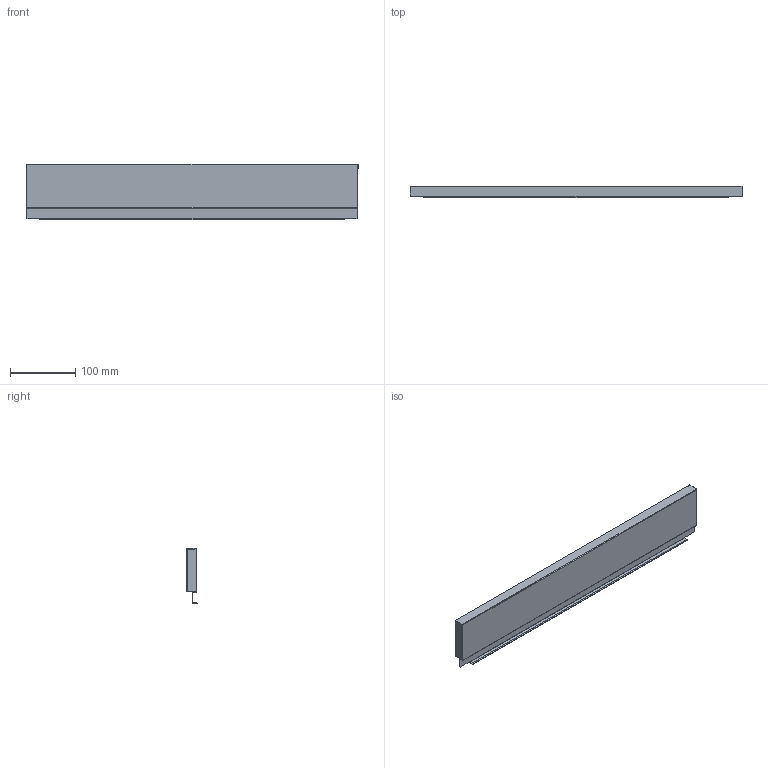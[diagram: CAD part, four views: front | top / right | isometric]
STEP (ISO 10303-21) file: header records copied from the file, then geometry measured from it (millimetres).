
FILE_DESCRIPTION (( 'STEP AP214' ), '1' );
FILE_NAME ('_STRW_H90_KAB_600.step', '2010-08-24T14:40:15', ( 'grass' ), ( '' ), 'SwSTEP 2.0', 'SolidWorks 2009', '' );
FILE_SCHEMA (( 'AUTOMOTIVE_DESIGN' ));
Length unit declared in the file: millimetre
Products named in the file (1): _STRW_H90_KAB_600
Bounding box: 510 x 17 x 85.14 mm (x, y, z)
Volume: 47490.4 mm3; surface area: 119799.9 mm2
Topology: 1 solids, 1 shells, 76 faces, 214 edges, 140 vertices
Faces by surface type: plane 54, cylinder 22
Entity records: 2472 total; most frequent: CARTESIAN_POINT 431, ORIENTED_EDGE 428, DIRECTION 412, EDGE_CURVE 214, LINE 170, VECTOR 170, VERTEX_POINT 140, AXIS2_PLACEMENT_3D 121
